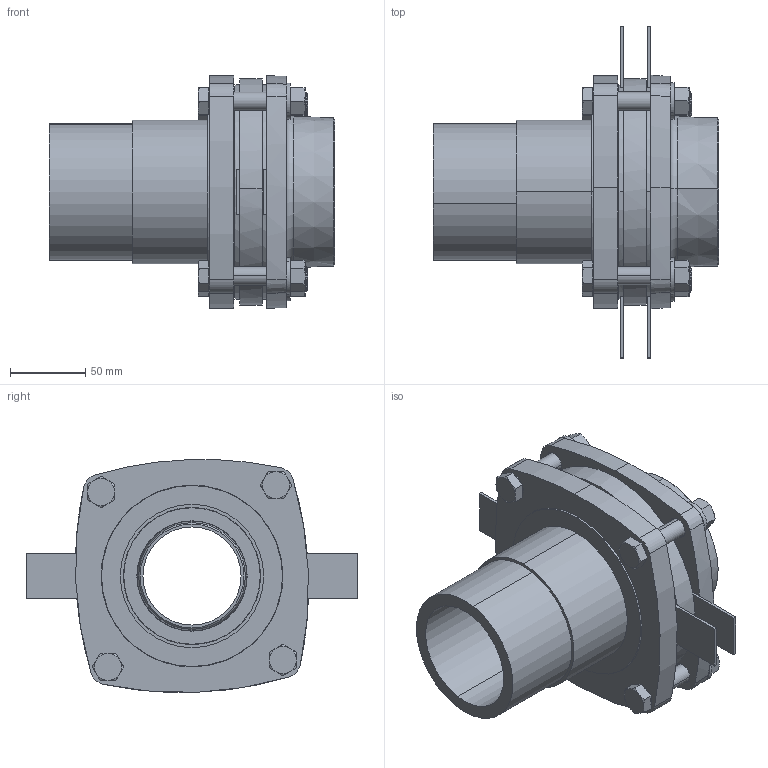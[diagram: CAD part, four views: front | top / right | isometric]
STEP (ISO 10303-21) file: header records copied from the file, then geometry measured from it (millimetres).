
FILE_DESCRIPTION (( 'STEP AP203' ), '1' );
FILE_NAME ('KP_C16-90F.step', '2011-08-08T12:01:26', ( '' ), ( '' ), 'SwSTEP 2.0', 'SolidWorks 2011', '' );
FILE_SCHEMA (( 'CONFIG_CONTROL_DESIGN' ));
Length unit declared in the file: millimetre
Products named in the file (1): KP_C16-90F
Bounding box: 189 x 220 x 154.19 mm (x, y, z)
Volume: 1138955.5 mm3; surface area: 261414.1 mm2
Topology: 1 solids, 1 shells, 382 faces, 851 edges, 510 vertices
Faces by surface type: plane 145, cone 114, cylinder 101, torus 22
Entity records: 11004 total; most frequent: CARTESIAN_POINT 2304, DIRECTION 1941, ORIENTED_EDGE 1702, EDGE_CURVE 851, AXIS2_PLACEMENT_3D 803, VERTEX_POINT 510, EDGE_LOOP 431, CIRCLE 420
